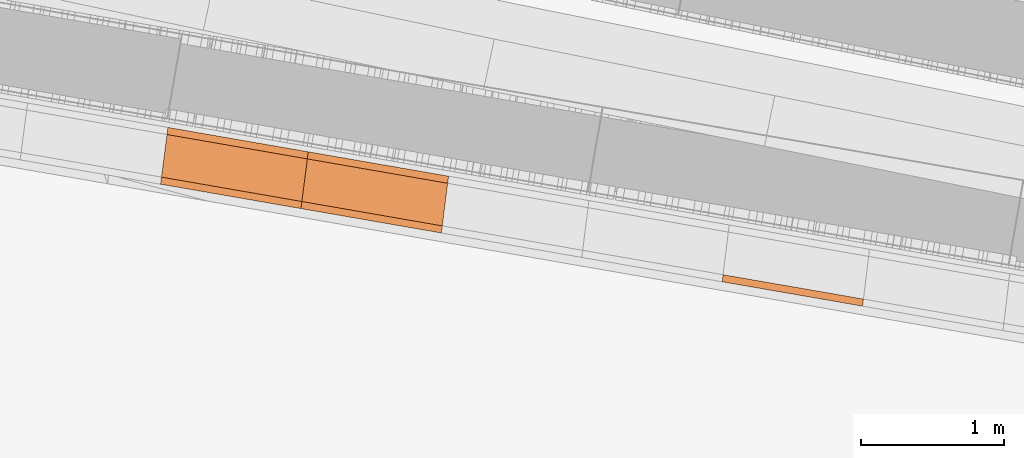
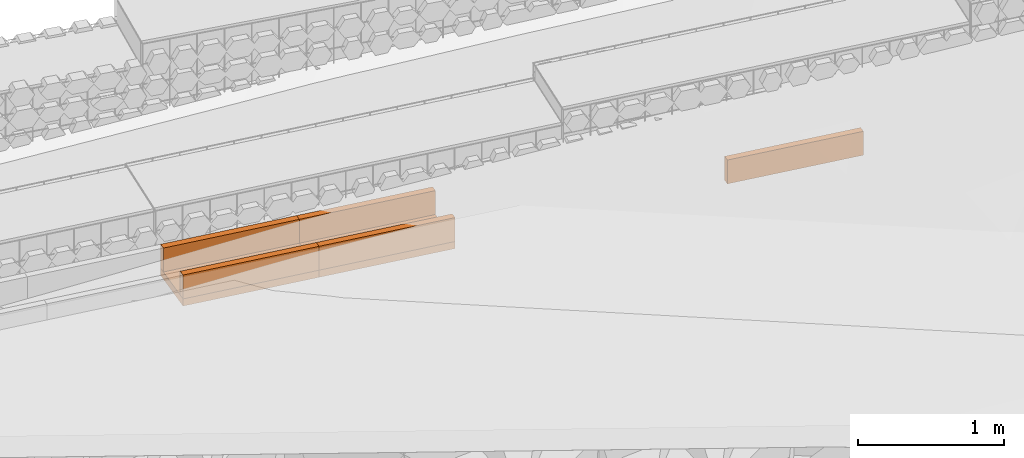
# Not in any storey, part 33 of 45: 7 proxies.
"""IFC4 model written with IfcOpenShell, lengths in metres."""

from ifc_helpers import new_model, si_unit, direction, frame, origin_with_axes, place, context, subcontext, project, spatial, polygons, material, element, save


model = new_model("IFC4")

# Units and contexts
model_context = context("Model", 3, precision=1e-05, world=origin_with_axes(), true_north=direction((0.0, 1.0)))
body_context = subcontext(model_context, "Body", "Model", "MODEL_VIEW")
ifc_project = project(units=[si_unit("VOLUMEUNIT", "CUBIC_METRE"), si_unit("LENGTHUNIT", "METRE"), si_unit("AREAUNIT", "SQUARE_METRE")], contexts=[model_context])

# Site
site_placement = place(None, origin_with_axes())
site = spatial("IfcSite", under=ifc_project, at=site_placement, Name="Lares · Rua das Mercês · artigo 4771")

# Proxies
ifc_material = material(Name="Caleiras · betão", Category="concrete")
proxy_1_placement = place(site_placement, frame((0.0, 0.0, 0.0), z_axis=(0.0, 0.0, 1.0), x_axis=(1.0, -1.03767253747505e-17, 0.0)))
element("IfcBuildingElementProxy", 1, at=proxy_1_placement, inside=site, material=ifc_material, Name="Acesso · canal lateral", ObjectType="Acesso · canal lateral", PredefinedType="USERDEFINED", context=body_context, shape_type="Tessellation", body=[
    polygons([(62.6270458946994, 9.2118588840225, 15.233), (62.6783025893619, 9.60856122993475, 15.233), (63.6586273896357, 9.43824478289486, 15.234), (63.6073706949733, 9.04154243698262, 15.234), (62.6270458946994, 9.2118588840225, 15.293), (62.6783025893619, 9.60856122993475, 15.293), (63.6586273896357, 9.43824478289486, 15.294), (63.6073706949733, 9.04154243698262, 15.294)], [[[4, 3, 2, 1]], [[5, 6, 7, 8]], [[1, 2, 6, 5]], [[2, 3, 7, 6]], [[3, 4, 8, 7]], [[4, 1, 5, 8]]]),
])
proxy_2_placement = place(site_placement, frame((0.0, 0.0, 0.0), z_axis=(0.0, 0.0, 1.0), x_axis=(1.0, -1.03767253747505e-17, 0.0)))
element("IfcBuildingElementProxy", 2, at=proxy_2_placement, inside=site, material=ifc_material, Name="Acesso · canal lateral", ObjectType="Acesso · canal lateral", PredefinedType="USERDEFINED", context=body_context, shape_type="Tessellation", body=[
    polygons([(62.6270458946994, 9.2118588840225, 15.293), (62.6334529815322, 9.26144667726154, 15.293), (63.6137777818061, 9.09113023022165, 15.294), (63.6073706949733, 9.04154243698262, 15.294), (62.6270458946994, 9.2118588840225, 15.493), (62.6334529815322, 9.26144667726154, 15.493), (63.6137777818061, 9.09113023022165, 15.494), (63.6073706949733, 9.04154243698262, 15.494)], [[[4, 3, 2, 1]], [[5, 6, 7, 8]], [[1, 2, 6, 5]], [[2, 3, 7, 6]], [[3, 4, 8, 7]], [[4, 1, 5, 8]]]),
])
proxy_3_placement = place(site_placement, frame((0.0, 0.0, 0.0), z_axis=(0.0, 0.0, 1.0), x_axis=(1.0, -1.03767253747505e-17, 0.0)))
element("IfcBuildingElementProxy", 3, at=proxy_3_placement, inside=site, material=ifc_material, Name="Acesso · canal lateral", ObjectType="Acesso · canal lateral", PredefinedType="USERDEFINED", context=body_context, shape_type="Tessellation", body=[
    polygons([(62.6718955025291, 9.55897343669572, 15.293), (62.6783025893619, 9.60856122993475, 15.293), (63.6586273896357, 9.43824478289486, 15.294), (63.6522203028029, 9.38865698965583, 15.294), (62.6718955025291, 9.55897343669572, 15.493), (62.6783025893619, 9.60856122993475, 15.493), (63.6586273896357, 9.43824478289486, 15.494), (63.6522203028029, 9.38865698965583, 15.494)], [[[4, 3, 2, 1]], [[5, 6, 7, 8]], [[1, 2, 6, 5]], [[2, 3, 7, 6]], [[3, 4, 8, 7]], [[4, 1, 5, 8]]]),
])
proxy_4_placement = place(site_placement, frame((0.0, 0.0, 0.0), z_axis=(0.0, 0.0, 1.0), x_axis=(1.0, -1.03767253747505e-17, 0.0)))
element("IfcBuildingElementProxy", 4, at=proxy_4_placement, inside=site, material=ifc_material, Name="Acesso · canal lateral", ObjectType="Acesso · canal lateral", PredefinedType="USERDEFINED", context=body_context, shape_type="Tessellation", body=[
    polygons([(63.6076843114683, 9.0415021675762, 15.234), (63.6583137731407, 9.43828505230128, 15.234), (64.6386270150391, 9.2679694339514, 15.235), (64.5879975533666, 8.87118654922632, 15.235), (63.6076843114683, 9.0415021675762, 15.294), (63.6583137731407, 9.43828505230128, 15.294), (64.6386270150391, 9.2679694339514, 15.295), (64.5879975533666, 8.87118654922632, 15.295)], [[[4, 3, 2, 1]], [[5, 6, 7, 8]], [[1, 2, 6, 5]], [[2, 3, 7, 6]], [[3, 4, 8, 7]], [[4, 1, 5, 8]]]),
])
proxy_5_placement = place(site_placement, frame((0.0, 0.0, 0.0), z_axis=(0.0, 0.0, 1.0), x_axis=(1.0, -1.03767253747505e-17, 0.0)))
element("IfcBuildingElementProxy", 5, at=proxy_5_placement, inside=site, material=ifc_material, Name="Acesso · canal lateral", ObjectType="Acesso · canal lateral", PredefinedType="USERDEFINED", context=body_context, shape_type="Tessellation", body=[
    polygons([(63.6076843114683, 9.0415021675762, 15.294), (63.6140129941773, 9.09110002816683, 15.294), (64.5943262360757, 8.92078440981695, 15.295), (64.5879975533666, 8.87118654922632, 15.295), (63.6076843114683, 9.0415021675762, 15.494), (63.6140129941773, 9.09110002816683, 15.494), (64.5943262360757, 8.92078440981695, 15.495), (64.5879975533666, 8.87118654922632, 15.495)], [[[4, 3, 2, 1]], [[5, 6, 7, 8]], [[1, 2, 6, 5]], [[2, 3, 7, 6]], [[3, 4, 8, 7]], [[4, 1, 5, 8]]]),
])
proxy_6_placement = place(site_placement, frame((0.0, 0.0, 0.0), z_axis=(0.0, 0.0, 1.0), x_axis=(1.0, -1.03767253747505e-17, 0.0)))
element("IfcBuildingElementProxy", 6, at=proxy_6_placement, inside=site, material=ifc_material, Name="Acesso · canal lateral", ObjectType="Acesso · canal lateral", PredefinedType="USERDEFINED", context=body_context, shape_type="Tessellation", body=[
    polygons([(63.6519850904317, 9.38868719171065, 15.294), (63.6583137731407, 9.43828505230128, 15.294), (64.638627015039, 9.26796943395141, 15.295), (64.63229833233, 9.21837157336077, 15.295), (63.6519850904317, 9.38868719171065, 15.494), (63.6583137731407, 9.43828505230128, 15.494), (64.638627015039, 9.26796943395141, 15.495), (64.63229833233, 9.21837157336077, 15.495)], [[[4, 3, 2, 1]], [[5, 6, 7, 8]], [[1, 2, 6, 5]], [[2, 3, 7, 6]], [[3, 4, 8, 7]], [[4, 1, 5, 8]]]),
])
proxy_7_placement = place(site_placement, frame((0.0, 0.0, 0.0), z_axis=(0.0, 0.0, 1.0), x_axis=(1.0, -1.03767253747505e-17, 0.0)))
element("IfcBuildingElementProxy", 7, at=proxy_7_placement, inside=site, material=ifc_material, Name="Acesso · canal lateral", ObjectType="Acesso · canal lateral", PredefinedType="USERDEFINED", context=body_context, shape_type="Tessellation", body=[
    polygons([(66.5495842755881, 8.53043315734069, 15.297), (66.5556637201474, 8.58006218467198, 15.297), (67.5359391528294, 8.40974908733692, 15.298), (67.5298597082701, 8.36012006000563, 15.298), (66.5495842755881, 8.53043315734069, 15.497), (66.5556637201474, 8.58006218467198, 15.497), (67.5359391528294, 8.40974908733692, 15.498), (67.5298597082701, 8.36012006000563, 15.498)], [[[4, 3, 2, 1]], [[5, 6, 7, 8]], [[1, 2, 6, 5]], [[2, 3, 7, 6]], [[3, 4, 8, 7]], [[4, 1, 5, 8]]]),
])

save(model, "model.ifc")
